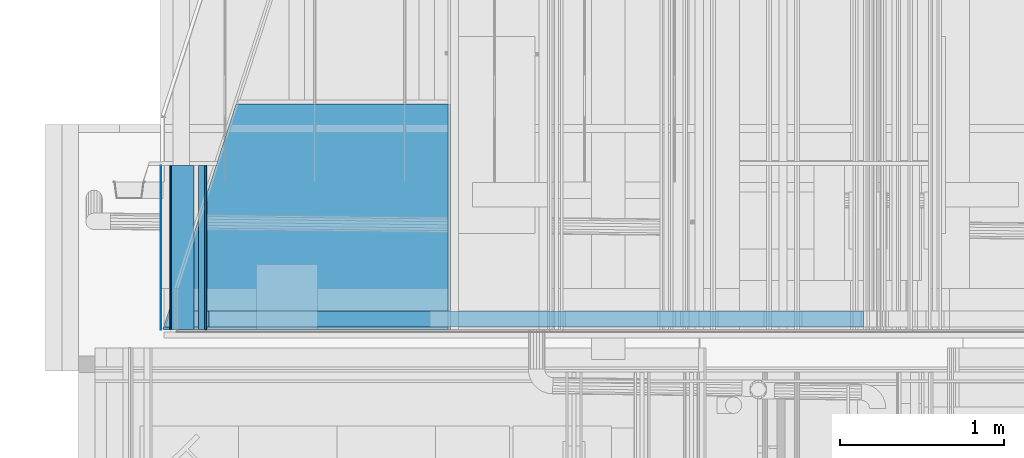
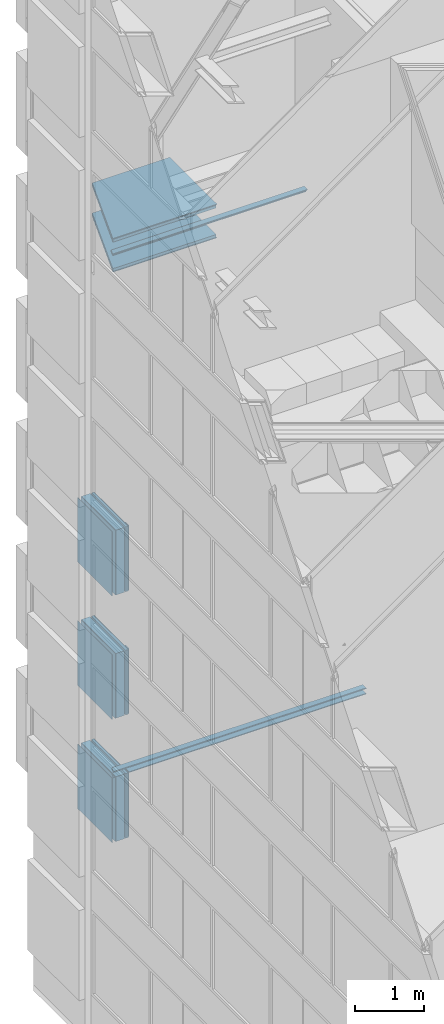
# One storey, part 132 of 583: 26 building element parts, 7 elements without a shape of their own.
"""IFC2X3 building model written with IfcOpenShell, lengths in metres."""

from ifc_helpers import new_model, entity, si_unit, converted_unit, derived_unit, money_unit, direction, frame, frame_2d, origin_with_axes, place, context, subcontext, project, spatial, polyline, rectangle, outline, extrude, clip, halfspace, material, type_object, element, aggregate, save


model = new_model("IFC2X3")

# Units and contexts
model_context = context("Model", 3, precision=1e-05, world=origin_with_axes(), true_north=direction((0.0, 1.0)))
body_context = subcontext(model_context, "Body", "Model", "MODEL_VIEW", scale=1.0)
ifc_project = project(units=[si_unit("LENGTHUNIT", "METRE"), si_unit("AREAUNIT", "SQUARE_METRE"), si_unit("VOLUMEUNIT", "CUBIC_METRE"), si_unit("ABSORBEDDOSEUNIT", "GRAY"), si_unit("AMOUNTOFSUBSTANCEUNIT", "MOLE"), si_unit("DOSEEQUIVALENTUNIT", "SIEVERT"), si_unit("ELECTRICCAPACITANCEUNIT", "FARAD"), si_unit("ELECTRICCHARGEUNIT", "COULOMB"), si_unit("ELECTRICCONDUCTANCEUNIT", "SIEMENS"), si_unit("ELECTRICCURRENTUNIT", "AMPERE"), si_unit("ELECTRICRESISTANCEUNIT", "OHM"), si_unit("ELECTRICVOLTAGEUNIT", "VOLT"), si_unit("ENERGYUNIT", "JOULE"), si_unit("FORCEUNIT", "NEWTON"), si_unit("FREQUENCYUNIT", "HERTZ"), si_unit("ILLUMINANCEUNIT", "LUX"), si_unit("INDUCTANCEUNIT", "HENRY"), si_unit("LUMINOUSFLUXUNIT", "LUMEN"), si_unit("LUMINOUSINTENSITYUNIT", "CANDELA"), si_unit("MAGNETICFLUXDENSITYUNIT", "TESLA"), si_unit("MAGNETICFLUXUNIT", "WEBER"), si_unit("MASSUNIT", "GRAM"), converted_unit("PLANEANGLEUNIT", "degree", entity("IfcReal", 0.0174532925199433), si_unit("PLANEANGLEUNIT", "RADIAN"), dimensions=[0, 0, 0, 0, 0, 0, 0]), si_unit("POWERUNIT", "WATT"), si_unit("PRESSUREUNIT", "PASCAL"), si_unit("RADIOACTIVITYUNIT", "BECQUEREL"), si_unit("SOLIDANGLEUNIT", "STERADIAN"), si_unit("THERMODYNAMICTEMPERATUREUNIT", "KELVIN"), si_unit("TIMEUNIT", "SECOND"), derived_unit("ACCELERATIONUNIT", [(si_unit("LENGTHUNIT", "METRE"), 1), (si_unit("TIMEUNIT", "SECOND"), -2)]), derived_unit("ANGULARVELOCITYUNIT", [(converted_unit("PLANEANGLEUNIT", "degree", entity("IfcReal", 0.0174532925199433), si_unit("PLANEANGLEUNIT", "RADIAN"), dimensions=[0, 0, 0, 0, 0, 0, 0]), 1), (si_unit("TIMEUNIT", "SECOND"), -1)]), derived_unit("CURVATUREUNIT", [(converted_unit("PLANEANGLEUNIT", "degree", entity("IfcReal", 0.0174532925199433), si_unit("PLANEANGLEUNIT", "RADIAN"), dimensions=[0, 0, 0, 0, 0, 0, 0]), 1), (si_unit("LENGTHUNIT", "METRE"), -1)]), derived_unit("DYNAMICVISCOSITYUNIT", [(si_unit("PRESSUREUNIT", "PASCAL"), 1), (si_unit("TIMEUNIT", "SECOND"), 1)]), derived_unit("HEATFLUXDENSITYUNIT", [(si_unit("POWERUNIT", "WATT"), 1), (si_unit("LENGTHUNIT", "METRE"), -2)]), derived_unit("HEATINGVALUEUNIT", [(si_unit("ENERGYUNIT", "JOULE"), 1), (si_unit("MASSUNIT", "GRAM"), -1)]), derived_unit("INTEGERCOUNTRATEUNIT", [(si_unit("TIMEUNIT", "SECOND"), -1)]), derived_unit("IONCONCENTRATIONUNIT", [(si_unit("MASSUNIT", "GRAM"), 1), (si_unit("VOLUMEUNIT", "CUBIC_METRE"), -1)]), derived_unit("ISOTHERMALMOISTURECAPACITYUNIT", [(si_unit("VOLUMEUNIT", "CUBIC_METRE"), 1), (si_unit("MASSUNIT", "GRAM"), -1)]), derived_unit("KINEMATICVISCOSITYUNIT", [(si_unit("AREAUNIT", "SQUARE_METRE"), 1), (si_unit("TIMEUNIT", "SECOND"), -1)]), derived_unit("LINEARFORCEUNIT", [(si_unit("FORCEUNIT", "NEWTON"), 1), (si_unit("LENGTHUNIT", "METRE"), -1)]), derived_unit("LINEARMOMENTUNIT", [(si_unit("FORCEUNIT", "NEWTON"), 1), (si_unit("LENGTHUNIT", "METRE"), -1)]), derived_unit("LINEARSTIFFNESSUNIT", [(si_unit("FORCEUNIT", "NEWTON"), 1), (si_unit("LENGTHUNIT", "METRE"), -1)]), derived_unit("LINEARVELOCITYUNIT", [(si_unit("LENGTHUNIT", "METRE"), 1), (si_unit("TIMEUNIT", "SECOND"), -1)]), derived_unit("LUMINOUSINTENSITYDISTRIBUTIONUNIT", [(si_unit("LUMINOUSINTENSITYUNIT", "CANDELA"), 1), (si_unit("LUMINOUSFLUXUNIT", "LUMEN"), -1)]), derived_unit("MASSDENSITYUNIT", [(si_unit("MASSUNIT", "GRAM"), 1), (si_unit("VOLUMEUNIT", "CUBIC_METRE"), -1)]), derived_unit("MASSFLOWRATEUNIT", [(si_unit("MASSUNIT", "GRAM"), 1), (si_unit("TIMEUNIT", "SECOND"), -1)]), derived_unit("MASSPERLENGTHUNIT", [(si_unit("MASSUNIT", "GRAM"), 1), (si_unit("LENGTHUNIT", "METRE"), -1)]), derived_unit("MODULUSOFELASTICITYUNIT", [(si_unit("FORCEUNIT", "NEWTON"), 1), (si_unit("AREAUNIT", "SQUARE_METRE"), -1)]), derived_unit("MODULUSOFLINEARSUBGRADEREACTIONUNIT", [(si_unit("FORCEUNIT", "NEWTON"), 1), (si_unit("LENGTHUNIT", "METRE"), -2)]), derived_unit("MODULUSOFROTATIONALSUBGRADEREACTIONUNIT", [(si_unit("FORCEUNIT", "NEWTON"), 1), (si_unit("LENGTHUNIT", "METRE"), 1)]), derived_unit("MODULUSOFSUBGRADEREACTIONUNIT", [(si_unit("FORCEUNIT", "NEWTON"), 1), (si_unit("VOLUMEUNIT", "CUBIC_METRE"), -1)]), derived_unit("MOISTUREDIFFUSIVITYUNIT", [(si_unit("VOLUMEUNIT", "CUBIC_METRE"), 1), (si_unit("TIMEUNIT", "SECOND"), -1)]), derived_unit("MOLECULARWEIGHTUNIT", [(si_unit("MASSUNIT", "GRAM"), 1), (si_unit("AMOUNTOFSUBSTANCEUNIT", "MOLE"), -1)]), derived_unit("PLANARFORCEUNIT", [(si_unit("FORCEUNIT", "NEWTON"), 1), (si_unit("LENGTHUNIT", "METRE"), -2)]), derived_unit("ROTATIONALFREQUENCYUNIT", [(si_unit("TIMEUNIT", "SECOND"), -1)]), derived_unit("ROTATIONALMASSUNIT", [(si_unit("MASSUNIT", "GRAM"), 1), (si_unit("LENGTHUNIT", "METRE"), 2)]), derived_unit("ROTATIONALSTIFFNESSUNIT", [(si_unit("FORCEUNIT", "NEWTON"), 1), (si_unit("LENGTHUNIT", "METRE"), 1), (converted_unit("PLANEANGLEUNIT", "degree", entity("IfcReal", 0.0174532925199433), si_unit("PLANEANGLEUNIT", "RADIAN"), dimensions=[0, 0, 0, 0, 0, 0, 0]), -1)]), derived_unit("SECTIONAREAINTEGRALUNIT", [(si_unit("LENGTHUNIT", "METRE"), 5)]), derived_unit("SECTIONMODULUSUNIT", [(si_unit("LENGTHUNIT", "METRE"), 3)]), derived_unit("SHEARMODULUSUNIT", [(si_unit("FORCEUNIT", "NEWTON"), 1), (si_unit("AREAUNIT", "SQUARE_METRE"), -1)]), derived_unit("SOUNDPOWERUNIT", [(si_unit("ENERGYUNIT", "JOULE"), 1), (si_unit("TIMEUNIT", "SECOND"), -1)]), derived_unit("SPECIFICHEATCAPACITYUNIT", [(si_unit("FORCEUNIT", "NEWTON"), 1), (si_unit("MASSUNIT", "GRAM"), -1), (si_unit("THERMODYNAMICTEMPERATUREUNIT", "KELVIN"), -1)]), derived_unit("TEMPERATUREGRADIENTUNIT", [(si_unit("THERMODYNAMICTEMPERATUREUNIT", "KELVIN"), 1), (si_unit("LENGTHUNIT", "METRE"), -1)]), derived_unit("THERMALADMITTANCEUNIT", [(si_unit("POWERUNIT", "WATT"), 1), (si_unit("AREAUNIT", "SQUARE_METRE"), -1), (si_unit("THERMODYNAMICTEMPERATUREUNIT", "KELVIN"), -1)]), derived_unit("THERMALCONDUCTANCEUNIT", [(si_unit("POWERUNIT", "WATT"), 1), (si_unit("LENGTHUNIT", "METRE"), -1), (si_unit("THERMODYNAMICTEMPERATUREUNIT", "KELVIN"), -1)]), derived_unit("THERMALEXPANSIONCOEFFICIENTUNIT", [(si_unit("THERMODYNAMICTEMPERATUREUNIT", "KELVIN"), -1)]), derived_unit("THERMALRESISTANCEUNIT", [(si_unit("AREAUNIT", "SQUARE_METRE"), 1), (si_unit("POWERUNIT", "WATT"), -1)]), derived_unit("THERMALTRANSMITTANCEUNIT", [(si_unit("POWERUNIT", "WATT"), 1), (si_unit("AREAUNIT", "SQUARE_METRE"), -1), (si_unit("THERMODYNAMICTEMPERATUREUNIT", "KELVIN"), -1)]), derived_unit("TORQUEUNIT", [(si_unit("FORCEUNIT", "NEWTON"), 1), (si_unit("LENGTHUNIT", "METRE"), 1)]), derived_unit("VAPORPERMEABILITYUNIT", [(si_unit("MASSUNIT", "GRAM"), 1), (si_unit("TIMEUNIT", "SECOND"), -1)]), derived_unit("VOLUMETRICFLOWRATEUNIT", [(si_unit("VOLUMEUNIT", "CUBIC_METRE"), 1), (si_unit("TIMEUNIT", "SECOND"), -1)]), derived_unit("WARPINGCONSTANTUNIT", [(si_unit("LENGTHUNIT", "METRE"), 6)]), derived_unit("WARPINGMOMENTUNIT", [(si_unit("FORCEUNIT", "NEWTON"), 1), (si_unit("LENGTHUNIT", "METRE"), 2)]), money_unit("GBP")], contexts=[model_context])

# Site, building, storey
site_placement = place(None, origin_with_axes())
site = spatial("IfcSite", under=ifc_project, at=site_placement, Name="Site", CompositionType="ELEMENT")
building_placement = place(site_placement, origin_with_axes())
building = spatial("IfcBuilding", under=site, at=building_placement, Name="Building01", CompositionType="ELEMENT")
storey_placement = place(building_placement, frame((0.0, 0.0, 20.78), z_axis=(0.0, 0.0, 1.0), x_axis=(1.0, 0.0, 0.0)))
storey = spatial("IfcBuildingStorey", under=building, at=storey_placement, Name="RL", CompositionType="ELEMENT", Elevation=20.78)

# Wall, building element parts
wall_type_1 = type_object("IfcWallType", Name="SHE_A-Walls_Type05b_Partition_80mm", PredefinedType="NOTDEFINED")
wall_1_placement = place(storey_placement, frame((4.806939, 14.98, -16.533024), z_axis=(0.0, 1.0, 0.0), x_axis=(-1.0, 0.0, 0.0)))
wall_1 = element("IfcWall", 1, at=wall_1_placement, inside=storey, type_object=wall_type_1, Name="5B", ObjectType="SHE_A-Walls_Type05b_Partition_80mm")
ifc_material_1 = material(Name="A_BSUK_Walls_Timber")
placement_1 = place(wall_1_placement, origin_with_axes())
building_element_part_1 = element("IfcBuildingElementPart", 2, at=placement_1, material=ifc_material_1, Name="2", context=body_context, shape_type="Clipping", body=[
    clip(extrude(rectangle(XDim=4.251209, YDim=0.015, at=frame_2d((2.152605, 0.0605), x_axis=(-1.0, 0.0))), frame((0.0, 0.0, 0.015), z_axis=(0.0, 0.0, 1.0), x_axis=(1.0, 0.0, 0.0)), (0.0, 0.0, 1.0), 0.1), halfspace(frame((3.874085, 0.0, 1.258766), z_axis=(-0.95105652, 0.0, -0.30901699), x_axis=(0.0, -1.0, 0.0)), True)),
])
building_element_part_2 = element("IfcBuildingElementPart", 3, at=placement_1, material=ifc_material_1, Name="5", context=body_context, shape_type="Clipping", body=[
    clip(extrude(rectangle(XDim=4.251209, YDim=0.015, at=frame_2d((2.152605, -0.0345), x_axis=(-1.0, 0.0))), frame((0.0, 0.0, 0.015), z_axis=(0.0, 0.0, 1.0), x_axis=(1.0, 0.0, 0.0)), (0.0, 0.0, 1.0), 0.1), halfspace(frame((3.874085, 0.0, 1.258766), z_axis=(-0.95105652, 0.0, -0.30901699), x_axis=(0.0, -1.0, 0.0)), True)),
])
aggregate(wall_1, [building_element_part_1, building_element_part_2])

wall_type_2 = type_object("IfcWallType", Name="SHE_A-Walls_Type01d_Partywall_200mm_twin", PredefinedType="NOTDEFINED")
wall_2_placement = place(storey_placement, frame((3.805, 14.98, -7.305), z_axis=(0.0, 1.0, 0.0), x_axis=(-1.0, 0.0, 0.0)))
wall_2 = element("IfcWall", 4, at=wall_2_placement, inside=storey, type_object=wall_type_2, Name="1D", ObjectType="SHE_A-Walls_Type01d_Partywall_200mm_twin")
placement_2 = place(wall_2_placement, origin_with_axes())
building_element_part_3 = element("IfcBuildingElementPart", 5, at=placement_2, material=ifc_material_1, Name="8", context=body_context, shape_type="Clipping", body=[
    clip(extrude(outline(polyline([(3.286784, 0.04), (0.01, 0.04), (0.025, 0.025), (3.286784, 0.025), (3.286784, 0.04)])), frame((0.0, 0.0, 0.015), z_axis=(0.0, 0.0, 1.0), x_axis=(1.0, 0.0, 0.0)), (0.0, 0.0, 1.0), 0.1), halfspace(frame((2.977333, 0.0, 0.967394), z_axis=(-0.95105652, 0.0, -0.30901699), x_axis=(0.0, -1.0, 0.0)), True)),
])
building_element_part_4 = element("IfcBuildingElementPart", 6, at=placement_2, material=ifc_material_1, Name="9", context=body_context, shape_type="Clipping", body=[
    clip(extrude(outline(polyline([(3.286784, 0.025), (0.025, 0.025), (0.04, 0.01), (3.286784, 0.01), (3.286784, 0.025)])), frame((0.0, 0.0, 0.015), z_axis=(0.0, 0.0, 1.0), x_axis=(1.0, 0.0, 0.0)), (0.0, 0.0, 1.0), 0.1), halfspace(frame((2.977333, 0.0, 0.967394), z_axis=(-0.95105652, 0.0, -0.30901699), x_axis=(0.0, -1.0, 0.0)), True)),
])
aggregate(wall_2, [building_element_part_3, building_element_part_4])

wall_type_3 = type_object("IfcWallType", Name="SHE_A-Walls_Type05c_PreWallShell_65mm", PredefinedType="NOTDEFINED")
wall_3_placement = place(storey_placement, frame((2.249668, 14.98, -7.045002), z_axis=(0.0, 1.0, 0.0), x_axis=(-1.0, 0.0, 0.0)))
wall_3 = element("IfcWall", 7, at=wall_3_placement, inside=storey, type_object=wall_type_3, Name="5C", ObjectType="SHE_A-Walls_Type05c_PreWallShell_65mm")
ifc_material_2 = material(Name="A_BSUK_OpeningsClearance")
placement_3 = place(wall_3_placement, origin_with_axes())
building_element_part_5 = element("IfcBuildingElementPart", 8, at=placement_3, material=ifc_material_2, Name="1", context=body_context, shape_type="Clipping", body=[
    clip(extrude(rectangle(XDim=1.736326, YDim=0.05, at=frame_2d((0.868163, 0.025), x_axis=(-1.0, 0.0))), origin_with_axes(), (0.0, 0.0, 1.0), 1.375), halfspace(frame((1.570521, 0.0, 0.510293), z_axis=(-0.95105652, 0.0, -0.30901699), x_axis=(0.0, -1.0, 0.0)), True)),
])
building_element_part_6 = element("IfcBuildingElementPart", 9, at=placement_3, material=ifc_material_1, Name="2", context=body_context, shape_type="Clipping", body=[
    clip(extrude(outline(polyline([(1.736326, 0.065), (-0.015, 0.065), (0.0, 0.05), (1.736326, 0.05), (1.736326, 0.065)])), origin_with_axes(), (0.0, 0.0, 1.0), 1.375), halfspace(frame((1.570521, 0.0, 0.510293), z_axis=(-0.95105652, 0.0, -0.30901699), x_axis=(0.0, -1.0, 0.0)), True)),
])
aggregate(wall_3, [building_element_part_5, building_element_part_6])

wall_4_placement = place(storey_placement, frame((2.249668, 14.98, -7.514998), z_axis=(0.0, 1.0, 0.0), x_axis=(-1.0, 0.0, 0.0)))
wall_4 = element("IfcWall", 10, at=wall_4_placement, inside=storey, type_object=wall_type_3, Name="5C", ObjectType="SHE_A-Walls_Type05c_PreWallShell_65mm")
placement_4 = place(wall_4_placement, origin_with_axes())
building_element_part_7 = element("IfcBuildingElementPart", 11, at=placement_4, material=ifc_material_2, Name="1", context=body_context, shape_type="Clipping", body=[
    clip(extrude(rectangle(XDim=1.736326, YDim=0.05, at=frame_2d((0.868163, -0.025), x_axis=(-1.0, 0.0))), origin_with_axes(), (0.0, 0.0, 1.0), 1.375), halfspace(frame((1.570521, 0.0, 0.510293), z_axis=(-0.95105652, 0.0, -0.30901699), x_axis=(0.0, -1.0, 0.0)), True)),
])
building_element_part_8 = element("IfcBuildingElementPart", 12, at=placement_4, material=ifc_material_1, Name="2", context=body_context, shape_type="Clipping", body=[
    clip(extrude(outline(polyline([(1.736326, -0.05), (0.0, -0.05), (-0.015, -0.065), (1.736326, -0.065), (1.736326, -0.05)])), origin_with_axes(), (0.0, 0.0, 1.0), 1.375), halfspace(frame((1.570521, 0.0, 0.510293), z_axis=(-0.95105652, 0.0, -0.30901699), x_axis=(0.0, -1.0, 0.0)), True)),
])
aggregate(wall_4, [building_element_part_7, building_element_part_8])

wall_type_4 = type_object("IfcWallType", Name="SHE_A-Walls_Type06e_ExternalWallPenthouse_280mm", PredefinedType="NOTDEFINED")
wall_5_placement = place(storey_placement, frame((0.565, 14.98, -12.180024), z_axis=(0.0, 1.0, 0.0), x_axis=(0.0, 0.0, -1.0)))
wall_5 = element("IfcWall", 13, at=wall_5_placement, inside=storey, type_object=wall_type_4, Name="6E", ObjectType="SHE_A-Walls_Type06e_ExternalWallPenthouse_280mm")
ifc_material_3 = material(Name="A_BSUK_Insulation")
placement_5 = place(wall_5_placement, origin_with_axes())
building_element_part_9 = element("IfcBuildingElementPart", 14, at=placement_5, material=ifc_material_3, Name="1", context=body_context, shape_type="SweptSolid", body=[
    extrude(rectangle(XDim=1.149951, YDim=0.14, at=frame_2d((0.574976, -0.07), x_axis=(-1.0, 0.0))), origin_with_axes(), (0.0, 0.0, 1.0), 1.0),
])
building_element_part_10 = element("IfcBuildingElementPart", 15, at=placement_5, material=ifc_material_3, Name="2", context=body_context, shape_type="SweptSolid", body=[
    extrude(rectangle(XDim=1.149951, YDim=0.04, at=frame_2d((0.574976, -0.185), x_axis=(-1.0, 0.0))), origin_with_axes(), (0.0, 0.0, 1.0), 1.0),
])
building_element_part_11 = element("IfcBuildingElementPart", 16, at=placement_5, material=ifc_material_1, Name="3", context=body_context, shape_type="SweptSolid", body=[
    extrude(rectangle(XDim=1.149951, YDim=0.015, at=frame_2d((0.574976, -0.2225), x_axis=(-1.0, 0.0))), frame((0.0, 0.0, 0.015), z_axis=(0.0, 0.0, 1.0), x_axis=(1.0, 0.0, 0.0)), (0.0, 0.0, 1.0), 0.1),
])
ifc_material_4 = material(Name="A_BSUK_WallInternal_Finishes_Plasterboard")
building_element_part_12 = element("IfcBuildingElementPart", 17, at=placement_5, material=ifc_material_4, Name="4", context=body_context, shape_type="SweptSolid", body=[
    extrude(rectangle(XDim=1.149951, YDim=0.01, at=frame_2d((0.574976, -0.21), x_axis=(-1.0, 0.0))), origin_with_axes(), (0.0, 0.0, 1.0), 1.0),
])
building_element_part_13 = element("IfcBuildingElementPart", 18, at=placement_5, material=ifc_material_1, Name="5", context=body_context, shape_type="SweptSolid", body=[
    extrude(rectangle(XDim=1.149951, YDim=0.01, at=frame_2d((0.574976, 0.005), x_axis=(-1.0, 0.0))), origin_with_axes(), (0.0, 0.0, 1.0), 1.0),
])
ifc_material_5 = material(Name="A_BSUK_WallInternal_Finishes_Metal")
building_element_part_14 = element("IfcBuildingElementPart", 19, at=placement_5, material=ifc_material_5, Name="6", context=body_context, shape_type="SweptSolid", body=[
    extrude(rectangle(XDim=1.149951, YDim=0.005, at=frame_2d((0.574976, 0.0625), x_axis=(-1.0, 0.0))), origin_with_axes(), (0.0, 0.0, 1.0), 1.0),
])
aggregate(wall_5, [building_element_part_9, building_element_part_10, building_element_part_11, building_element_part_12, building_element_part_13, building_element_part_14])

wall_6_placement = place(storey_placement, frame((0.565, 14.98, -14.370024), z_axis=(0.0, 1.0, 0.0), x_axis=(0.0, 0.0, -1.0)))
wall_6 = element("IfcWall", 20, at=wall_6_placement, inside=storey, type_object=wall_type_4, Name="6E", ObjectType="SHE_A-Walls_Type06e_ExternalWallPenthouse_280mm")
placement_6 = place(wall_6_placement, origin_with_axes())
building_element_part_15 = element("IfcBuildingElementPart", 21, at=placement_6, material=ifc_material_3, Name="1", context=body_context, shape_type="SweptSolid", body=[
    extrude(rectangle(XDim=1.149951, YDim=0.14, at=frame_2d((0.574976, -0.07), x_axis=(-1.0, 0.0))), origin_with_axes(), (0.0, 0.0, 1.0), 1.0),
])
building_element_part_16 = element("IfcBuildingElementPart", 22, at=placement_6, material=ifc_material_3, Name="2", context=body_context, shape_type="SweptSolid", body=[
    extrude(rectangle(XDim=1.149951, YDim=0.04, at=frame_2d((0.574976, -0.185), x_axis=(-1.0, 0.0))), origin_with_axes(), (0.0, 0.0, 1.0), 1.0),
])
building_element_part_17 = element("IfcBuildingElementPart", 23, at=placement_6, material=ifc_material_1, Name="3", context=body_context, shape_type="SweptSolid", body=[
    extrude(rectangle(XDim=1.149951, YDim=0.015, at=frame_2d((0.574976, -0.2225), x_axis=(-1.0, 0.0))), frame((0.0, 0.0, 0.015), z_axis=(0.0, 0.0, 1.0), x_axis=(1.0, 0.0, 0.0)), (0.0, 0.0, 1.0), 0.1),
])
building_element_part_18 = element("IfcBuildingElementPart", 24, at=placement_6, material=ifc_material_4, Name="4", context=body_context, shape_type="SweptSolid", body=[
    extrude(rectangle(XDim=1.149951, YDim=0.01, at=frame_2d((0.574976, -0.21), x_axis=(-1.0, 0.0))), origin_with_axes(), (0.0, 0.0, 1.0), 1.0),
])
building_element_part_19 = element("IfcBuildingElementPart", 25, at=placement_6, material=ifc_material_1, Name="5", context=body_context, shape_type="SweptSolid", body=[
    extrude(rectangle(XDim=1.149951, YDim=0.01, at=frame_2d((0.574976, 0.005), x_axis=(-1.0, 0.0))), origin_with_axes(), (0.0, 0.0, 1.0), 1.0),
])
building_element_part_20 = element("IfcBuildingElementPart", 26, at=placement_6, material=ifc_material_5, Name="6", context=body_context, shape_type="SweptSolid", body=[
    extrude(rectangle(XDim=1.149951, YDim=0.005, at=frame_2d((0.574976, 0.0625), x_axis=(-1.0, 0.0))), origin_with_axes(), (0.0, 0.0, 1.0), 1.0),
])
aggregate(wall_6, [building_element_part_15, building_element_part_16, building_element_part_17, building_element_part_18, building_element_part_19, building_element_part_20])

wall_7_placement = place(storey_placement, frame((0.565, 14.98, -16.560024), z_axis=(0.0, 1.0, 0.0), x_axis=(0.0, 0.0, -1.0)))
wall_7 = element("IfcWall", 27, at=wall_7_placement, inside=storey, type_object=wall_type_4, Name="6E", ObjectType="SHE_A-Walls_Type06e_ExternalWallPenthouse_280mm")
placement_7 = place(wall_7_placement, origin_with_axes())
building_element_part_21 = element("IfcBuildingElementPart", 28, at=placement_7, material=ifc_material_3, Name="1", context=body_context, shape_type="SweptSolid", body=[
    extrude(rectangle(XDim=1.149951, YDim=0.14, at=frame_2d((0.574976, -0.07), x_axis=(-1.0, 0.0))), origin_with_axes(), (0.0, 0.0, 1.0), 1.0),
])
building_element_part_22 = element("IfcBuildingElementPart", 29, at=placement_7, material=ifc_material_3, Name="2", context=body_context, shape_type="SweptSolid", body=[
    extrude(rectangle(XDim=1.149951, YDim=0.04, at=frame_2d((0.574976, -0.185), x_axis=(-1.0, 0.0))), origin_with_axes(), (0.0, 0.0, 1.0), 1.0),
])
building_element_part_23 = element("IfcBuildingElementPart", 30, at=placement_7, material=ifc_material_1, Name="3", context=body_context, shape_type="SweptSolid", body=[
    extrude(rectangle(XDim=1.149951, YDim=0.015, at=frame_2d((0.574976, -0.2225), x_axis=(-1.0, 0.0))), frame((0.0, 0.0, 0.015), z_axis=(0.0, 0.0, 1.0), x_axis=(1.0, 0.0, 0.0)), (0.0, 0.0, 1.0), 0.1),
])
building_element_part_24 = element("IfcBuildingElementPart", 31, at=placement_7, material=ifc_material_4, Name="4", context=body_context, shape_type="SweptSolid", body=[
    extrude(rectangle(XDim=1.149951, YDim=0.01, at=frame_2d((0.574976, -0.21), x_axis=(-1.0, 0.0))), origin_with_axes(), (0.0, 0.0, 1.0), 1.0),
])
building_element_part_25 = element("IfcBuildingElementPart", 32, at=placement_7, material=ifc_material_1, Name="5", context=body_context, shape_type="SweptSolid", body=[
    extrude(rectangle(XDim=1.149951, YDim=0.01, at=frame_2d((0.574976, 0.005), x_axis=(-1.0, 0.0))), origin_with_axes(), (0.0, 0.0, 1.0), 1.0),
])
building_element_part_26 = element("IfcBuildingElementPart", 33, at=placement_7, material=ifc_material_5, Name="6", context=body_context, shape_type="SweptSolid", body=[
    extrude(rectangle(XDim=1.149951, YDim=0.005, at=frame_2d((0.574976, 0.0625), x_axis=(-1.0, 0.0))), origin_with_axes(), (0.0, 0.0, 1.0), 1.0),
])
aggregate(wall_7, [building_element_part_21, building_element_part_22, building_element_part_23, building_element_part_24, building_element_part_25, building_element_part_26])

save(model, "model.ifc")
